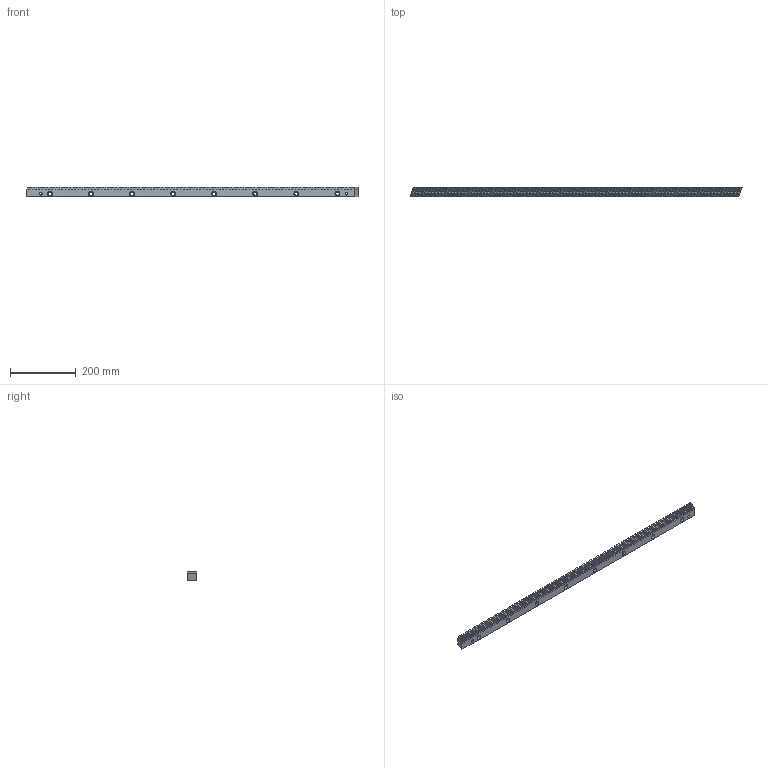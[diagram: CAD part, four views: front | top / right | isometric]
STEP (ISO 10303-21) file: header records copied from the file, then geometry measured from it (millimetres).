
FILE_DESCRIPTION (( 'STEP AP203' ), '1' );
FILE_NAME ('FX2 22 141 211.STEP', '2023-04-06T06:37:24', ( '' ), ( '' ), 'SwSTEP 2.0', 'SolidWorks 2010', '' );
FILE_SCHEMA (( 'CONFIG_CONTROL_DESIGN' ));
Products named in the file (1): FX2 22 141 211
Bounding box: 1010.27 x 29 x 29 mm (x, y, z)
Volume: 714185.2 mm3; surface area: 148168.2 mm2
Topology: 1 solids, 1 shells, 1637 faces, 4632 edges, 3088 vertices
Faces by surface type: plane 1231, bspline 370, cylinder 36
Entity records: 78951 total; most frequent: CARTESIAN_POINT 38824, ORIENTED_EDGE 9264, DIRECTION 6500, EDGE_CURVE 4632, VECTOR 3820, LINE 3820, VERTEX_POINT 3088, EDGE_LOOP 1748
